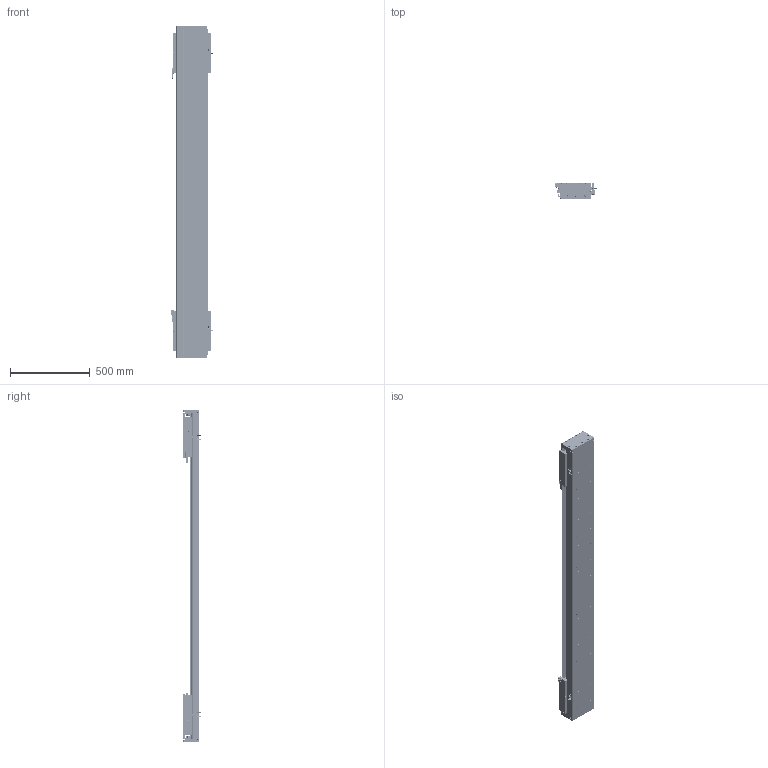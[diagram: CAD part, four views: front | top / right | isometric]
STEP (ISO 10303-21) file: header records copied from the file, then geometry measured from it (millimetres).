
FILE_DESCRIPTION (( 'STEP AP203' ), '1' );
FILE_NAME ('DA-C195-2-C3-T1460-C010-0.2 眻盄萇儂.STEP', '2025-08-15T00:41:34', ( '' ), ( '' ), 'SwSTEP 2.0', 'SolidWorks 2019', '' );
FILE_SCHEMA (( 'CONFIG_CONTROL_DESIGN' ));
Length unit declared in the file: millimetre
Products named in the file (19): DKW-KGZ-ZJ-00 中间光电开关支架; MS200 棠掑喜S315-T240; DKW-GYP-ZJ-00 笢潔嫖萇覜茼え; DA195詩湍菜輸; DA-C195-GD-DB-H-00 傷啣; IU-CU195-L-00 菁釱(L2040); DKW168-HXJ-ZJ-00 笢潔滅袉砎蝶; PM-Y65嫖萇羲壽郪璃; LMT黍杅芛; DA195詩湍嶺輸; DA95-HXJ-00 遣喳砎蝶; CU195-C3賑輸-俋楷; DA195詩湍郪璃; DA165-GYP-00 光电感应片(默认); IU-CU195-L 菁釱絳寢; PM-T45ㄗ侂狟ㄘ; DA-C195-2-C3-T1460-C010-0.2 眻盄萇儂; 葩璃 DA95-GT-T-00; DA195詩湍裔啣
Assembly tree (37 placements, depth 3):
  DA-C195-2-C3-T1460-C010-0.2 眻盄萇儂
    DA195詩湍郪璃
      DA195詩湍菜輸  x2
      DA195詩湍裔啣
      DA195詩湍嶺輸  x2
      DA95-HXJ-00 遣喳砎蝶  x8
      DA-C195-GD-DB-H-00 傷啣  x2
    IU-CU195-L 菁釱絳寢
      IU-CU195-L-00 菁釱(L2040)
      葩璃 DA95-GT-T-00  x4
    LMT黍杅芛  x2
    MS200 棠掑喜S315-T240
    PM-T45ㄗ侂狟ㄘ  x4
    DA165-GYP-00 光电感应片(默认)  x2
    PM-Y65嫖萇羲壽郪璃
    DKW168-HXJ-ZJ-00 笢潔滅袉砎蝶
    DKW-GYP-ZJ-00 笢潔嫖萇覜茼え
    DKW-KGZ-ZJ-00 中间光电开关支架
    CU195-C3賑輸-俋楷  x2
Bounding box: 258.2 x 115.45 x 2080 mm (x, y, z)
Volume: 14306263.9 mm3; surface area: 4037324.4 mm2
Topology: 154 solids, 218 shells, 6659 faces, 17535 edges, 10885 vertices
Faces by surface type: cylinder 3066, plane 2541, cone 884, torus 88, sphere 72, bspline 8
Entity records: 137645 total; most frequent: CARTESIAN_POINT 35153, ORIENTED_EDGE 21086, DIRECTION 20600, EDGE_CURVE 10543, AXIS2_PLACEMENT_3D 7561, VERTEX_POINT 6810, VECTOR 5478, LINE 5478
